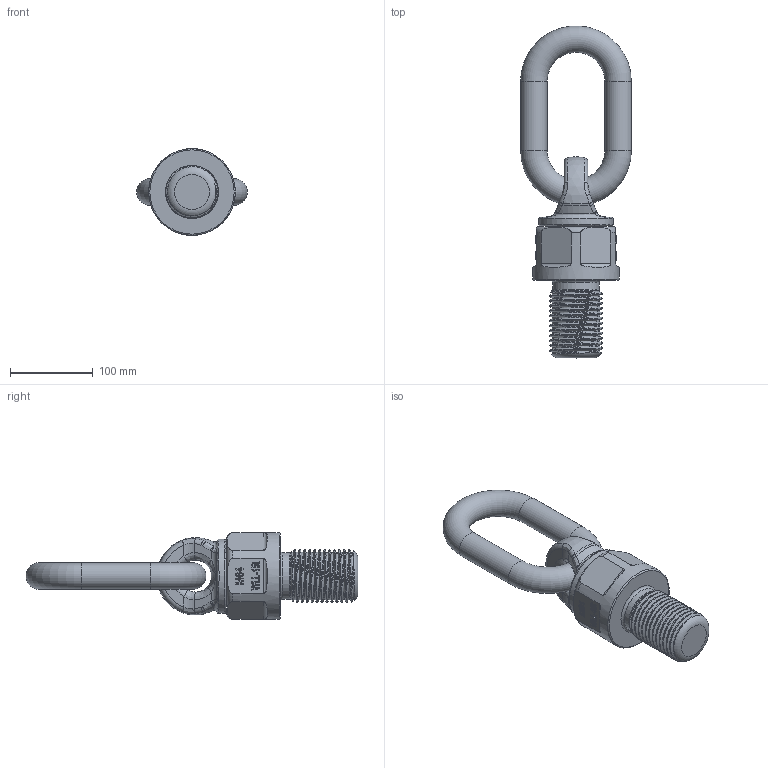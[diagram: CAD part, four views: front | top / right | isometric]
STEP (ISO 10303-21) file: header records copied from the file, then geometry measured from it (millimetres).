
FILE_DESCRIPTION(/* description */ (''),/* implementation_level */ '2;1');
FILE_NAME(/* name */ 'YTJ-M64.stp',/* time_stamp */ '2025-04-02T11:23:56+08:00',/* author */ (''),/* organization */ (''),/* preprocessor_version */ 'ST-DEVELOPER v16',/* originating_system */ 'SIEMENS PLM Software NX 10.0',/* authorisation */ '');
FILE_SCHEMA (('AP203_CONFIGURATION_CONTROLLED_3D_DESIGN_OF_MECHANICAL_PARTS_AND_ASSEMBLIES_MIM_LF { 1 0 10303 403 2 1 2}'));
Length unit declared in the file: millimetre
Products named in the file (1): Admi177C9AD32ia8
Bounding box: 134 x 401.97 x 105 mm (x, y, z)
Volume: 1397830.2 mm3; surface area: 157392.6 mm2
Topology: 3 solids, 3 shells, 273 faces, 696 edges, 444 vertices
Faces by surface type: plane 132, bspline 46, cylinder 38, torus 28, extrusion 25, cone 3, sphere 1
Full cylindrical faces by diameter (mm): 32 x2, 56.4 x1, 59.5 x1, 60 x1, 90 x1, 105 x1
Entity records: 11828 total; most frequent: CARTESIAN_POINT 5852, ORIENTED_EDGE 1326, DIRECTION 996, EDGE_CURVE 663, VERTEX_POINT 433, AXIS2_PLACEMENT_3D 350, EDGE_LOOP 312, VECTOR 296
